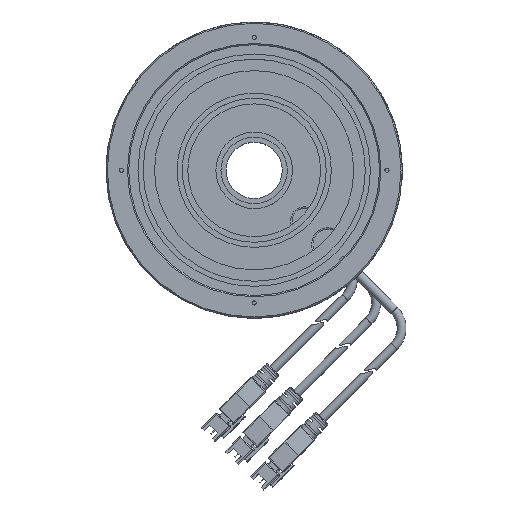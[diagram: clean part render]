
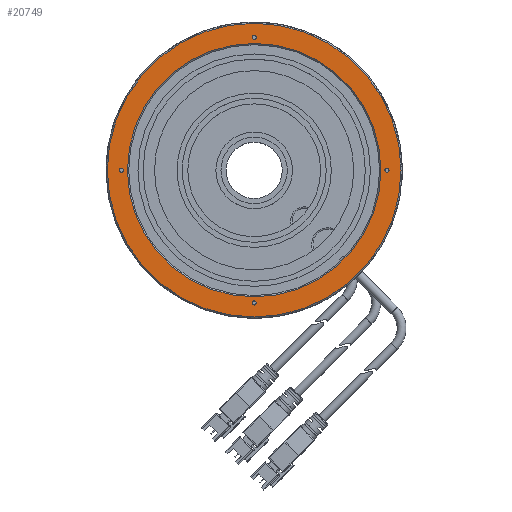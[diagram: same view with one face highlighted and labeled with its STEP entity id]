
A CAD part, top view. The second image highlights one B-rep face of the part: STEP entity #20749.
In plain terms, the highlighted planar face has unit normal (0, 0, 1).
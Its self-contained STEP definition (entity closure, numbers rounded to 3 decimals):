
#961 = VERTEX_POINT ( 'NONE', #15771 ) ;
#997 = EDGE_CURVE ( 'NONE', #8218, #8218, #11406, .T. ) ;
#1279 = CARTESIAN_POINT ( 'NONE',  ( -9.007, 52.133, 110.3 ) ) ;
#1665 = AXIS2_PLACEMENT_3D ( 'NONE', #10863, #18095, #21424 ) ;
#1802 = CARTESIAN_POINT ( 'NONE',  ( -9.007, 0.933, 110.3 ) ) ;
#2651 = DIRECTION ( 'NONE',  ( 0., 0., 1. ) ) ;
#2883 = CARTESIAN_POINT ( 'NONE',  ( -61.007, 0.933, 110.3 ) ) ;
#3133 = CIRCLE ( 'NONE', #6328, 0.8 ) ;
#3289 = CARTESIAN_POINT ( 'NONE',  ( -9.007, -56.566, 110.3 ) ) ;
#3745 = DIRECTION ( 'NONE',  ( 0., 0., 1. ) ) ;
#4051 = ORIENTED_EDGE ( 'NONE', *, *, #10149, .F. ) ;
#4691 = DIRECTION ( 'NONE',  ( 0., 0., 1. ) ) ;
#5010 = CARTESIAN_POINT ( 'NONE',  ( 42.993, 0.133, 110.3 ) ) ;
#5163 = VERTEX_POINT ( 'NONE', #3289 ) ;
#5911 = EDGE_LOOP ( 'NONE', ( #14815 ) ) ;
#6316 = CIRCLE ( 'NONE', #1665, 0.8 ) ;
#6328 = AXIS2_PLACEMENT_3D ( 'NONE', #2883, #4691, #11801 ) ;
#6662 = CARTESIAN_POINT ( 'NONE',  ( -66.507, 0.933, 110.3 ) ) ;
#6770 = DIRECTION ( 'NONE',  ( 0., -1., 0. ) ) ;
#6830 = VERTEX_POINT ( 'NONE', #1279 ) ;
#6932 = DIRECTION ( 'NONE',  ( 0., 0., 1. ) ) ;
#7123 = EDGE_LOOP ( 'NONE', ( #8747 ) ) ;
#7367 = VERTEX_POINT ( 'NONE', #21365 ) ;
#7575 = EDGE_LOOP ( 'NONE', ( #18807 ) ) ;
#7578 = AXIS2_PLACEMENT_3D ( 'NONE', #10245, #6932, #6770 ) ;
#7959 = CARTESIAN_POINT ( 'NONE',  ( -9.007, -51.067, 110.3 ) ) ;
#8218 = VERTEX_POINT ( 'NONE', #5010 ) ;
#8251 = EDGE_LOOP ( 'NONE', ( #4051 ) ) ;
#8747 = ORIENTED_EDGE ( 'NONE', *, *, #16244, .F. ) ;
#8878 = FACE_BOUND ( 'NONE', #20888, .T. ) ;
#9581 = CARTESIAN_POINT ( 'NONE',  ( 42.993, 0.933, 110.3 ) ) ;
#9658 = DIRECTION ( 'NONE',  ( 0., 0., 1. ) ) ;
#9997 = CIRCLE ( 'NONE', #7578, 49.619 ) ;
#10036 = AXIS2_PLACEMENT_3D ( 'NONE', #9581, #9658, #13131 ) ;
#10149 = EDGE_CURVE ( 'NONE', #11234, #11234, #9997, .T. ) ;
#10235 = FACE_BOUND ( 'NONE', #7123, .T. ) ;
#10245 = CARTESIAN_POINT ( 'NONE',  ( -9.007, 0.933, 110.3 ) ) ;
#10863 = CARTESIAN_POINT ( 'NONE',  ( -9.007, 52.933, 110.3 ) ) ;
#11123 = EDGE_CURVE ( 'NONE', #5163, #5163, #13537, .T. ) ;
#11234 = VERTEX_POINT ( 'NONE', #13665 ) ;
#11406 = CIRCLE ( 'NONE', #10036, 0.8 ) ;
#11801 = DIRECTION ( 'NONE',  ( 0., -1., 0. ) ) ;
#11901 = FACE_BOUND ( 'NONE', #19015, .T. ) ;
#12529 = ORIENTED_EDGE ( 'NONE', *, *, #12950, .F. ) ;
#12950 = EDGE_CURVE ( 'NONE', #6830, #6830, #6316, .T. ) ;
#13007 = FACE_BOUND ( 'NONE', #8251, .T. ) ;
#13131 = DIRECTION ( 'NONE',  ( 0., -1., 0. ) ) ;
#13279 = ORIENTED_EDGE ( 'NONE', *, *, #16361, .F. ) ;
#13537 = CIRCLE ( 'NONE', #14983, 57.499 ) ;
#13665 = CARTESIAN_POINT ( 'NONE',  ( -9.007, -48.685, 110.3 ) ) ;
#13948 = CIRCLE ( 'NONE', #22510, 0.8 ) ;
#14132 = FACE_OUTER_BOUND ( 'NONE', #5911, .T. ) ;
#14815 = ORIENTED_EDGE ( 'NONE', *, *, #11123, .T. ) ;
#14983 = AXIS2_PLACEMENT_3D ( 'NONE', #1802, #3745, #16149 ) ;
#15771 = CARTESIAN_POINT ( 'NONE',  ( -61.007, 0.133, 110.3 ) ) ;
#16149 = DIRECTION ( 'NONE',  ( 0., -1., 0. ) ) ;
#16244 = EDGE_CURVE ( 'NONE', #7367, #7367, #13948, .T. ) ;
#16361 = EDGE_CURVE ( 'NONE', #961, #961, #3133, .T. ) ;
#17446 = PLANE ( 'NONE',  #18037 ) ;
#18037 = AXIS2_PLACEMENT_3D ( 'NONE', #6662, #22709, #21085 ) ;
#18095 = DIRECTION ( 'NONE',  ( 0., 0., 1. ) ) ;
#18807 = ORIENTED_EDGE ( 'NONE', *, *, #997, .F. ) ;
#19015 = EDGE_LOOP ( 'NONE', ( #12529 ) ) ;
#20749 = ADVANCED_FACE ( 'NONE', ( #11901, #22163, #10235, #8878, #13007, #14132 ), #17446, .F. ) ;
#20888 = EDGE_LOOP ( 'NONE', ( #13279 ) ) ;
#21085 = DIRECTION ( 'NONE',  ( 0., 1., 0. ) ) ;
#21365 = CARTESIAN_POINT ( 'NONE',  ( -9.007, -51.867, 110.3 ) ) ;
#21424 = DIRECTION ( 'NONE',  ( 0., -1., 0. ) ) ;
#22127 = DIRECTION ( 'NONE',  ( 0., -1., 0. ) ) ;
#22163 = FACE_BOUND ( 'NONE', #7575, .T. ) ;
#22510 = AXIS2_PLACEMENT_3D ( 'NONE', #7959, #2651, #22127 ) ;
#22709 = DIRECTION ( 'NONE',  ( 0., 0., -1. ) ) ;
